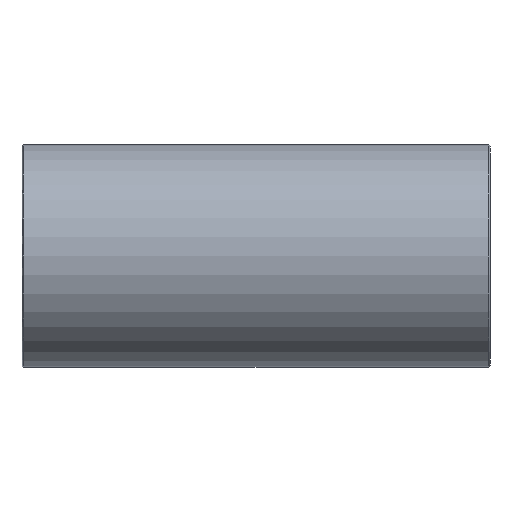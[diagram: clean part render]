
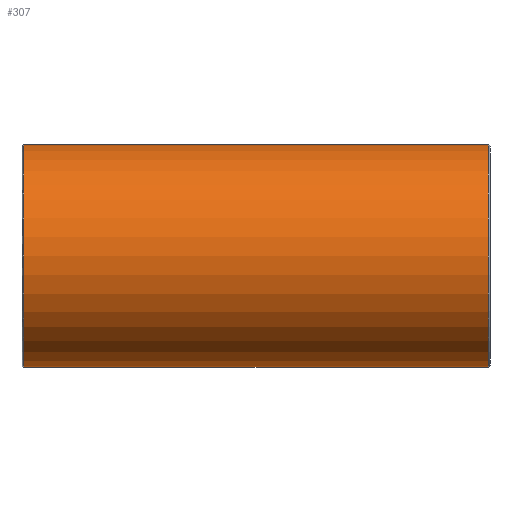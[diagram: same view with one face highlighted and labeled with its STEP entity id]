
A CAD part, front view. The second image highlights one B-rep face of the part: STEP entity #307.
In plain terms, the highlighted cylindrical face has radius 24 mm (diameter 48 mm), a full revolution.
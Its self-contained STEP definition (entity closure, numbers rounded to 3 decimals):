
#21=B_SPLINE_CURVE_WITH_KNOTS('',3,(#503,#504,#505,#506,#507,#508,#509,
#510,#511,#512,#513,#514,#515,#516,#517,#518,#519,#520,#521,#522,#523,#524,
#525,#526,#527,#528,#529,#530,#531,#532,#533,#534,#535,#536,#537,#538,#539,
#540,#541,#542,#543,#544,#545,#546,#547,#548,#549,#550,#551,#552,#553,#554,
#555,#556,#557,#558,#559,#560,#561,#562,#563,#564,#565,#566,#567,#568,#569,
#570,#571,#572,#573,#574,#575,#576),.UNSPECIFIED.,.T.,.F.,(4,2,2,2,2,2,
2,2,2,2,2,2,2,2,2,2,2,2,2,2,2,2,2,2,2,2,2,2,2,2,2,2,2,2,2,2,4),(0.,0.272,
0.544,1.087,1.631,2.175,2.655,
3.136,3.616,4.097,4.577,5.058,
5.538,6.019,6.563,7.106,7.65,
7.922,8.194,8.465,8.737,9.281,
9.824,10.368,10.849,11.329,11.81,
12.29,12.771,13.251,13.732,14.212,
14.756,15.3,15.843,16.115,16.387),
 .UNSPECIFIED.);
#22=FACE_BOUND('',#90,.T.);
#23=FACE_BOUND('',#91,.T.);
#39=CIRCLE('',#333,24.);
#40=CIRCLE('',#334,24.);
#54=CYLINDRICAL_SURFACE('',#332,24.);
#66=FACE_OUTER_BOUND('',#89,.T.);
#89=EDGE_LOOP('',(#250));
#90=EDGE_LOOP('',(#251));
#91=EDGE_LOOP('',(#252));
#170=VERTEX_POINT('',#498);
#171=VERTEX_POINT('',#500);
#172=VERTEX_POINT('',#502);
#204=EDGE_CURVE('',#170,#170,#39,.T.);
#205=EDGE_CURVE('',#171,#171,#40,.T.);
#206=EDGE_CURVE('',#172,#172,#21,.T.);
#250=ORIENTED_EDGE('',*,*,#204,.F.);
#251=ORIENTED_EDGE('',*,*,#205,.F.);
#252=ORIENTED_EDGE('',*,*,#206,.F.);
#307=ADVANCED_FACE('',(#66,#22,#23),#54,.T.);
#332=AXIS2_PLACEMENT_3D('',#497,#397,#398);
#333=AXIS2_PLACEMENT_3D('',#499,#399,#400);
#334=AXIS2_PLACEMENT_3D('',#501,#401,#402);
#397=DIRECTION('center_axis',(1.,0.,0.));
#398=DIRECTION('ref_axis',(0.,1.,0.));
#399=DIRECTION('center_axis',(-1.,0.,0.));
#400=DIRECTION('ref_axis',(0.,-1.,0.));
#401=DIRECTION('center_axis',(1.,0.,0.));
#402=DIRECTION('ref_axis',(0.,-1.,0.));
#497=CARTESIAN_POINT('Origin',(0.,0.,
0.));
#498=CARTESIAN_POINT('',(-50.11,24.,0.));
#499=CARTESIAN_POINT('Origin',(-50.11,0.,0.));
#500=CARTESIAN_POINT('',(50.11,24.,0.));
#501=CARTESIAN_POINT('Origin',(50.11,0.,0.));
#502=CARTESIAN_POINT('',(0.,6.769,23.026));
#503=CARTESIAN_POINT('Ctrl Pts',(0.,6.769,
23.026));
#504=CARTESIAN_POINT('Ctrl Pts',(0.906,6.769,23.026));
#505=CARTESIAN_POINT('Ctrl Pts',(1.738,6.93,22.979));
#506=CARTESIAN_POINT('Ctrl Pts',(3.324,7.435,22.821));
#507=CARTESIAN_POINT('Ctrl Pts',(4.076,7.778,22.708));
#508=CARTESIAN_POINT('Ctrl Pts',(6.284,8.966,22.278));
#509=CARTESIAN_POINT('Ctrl Pts',(7.684,9.959,21.869));
#510=CARTESIAN_POINT('Ctrl Pts',(10.439,12.076,20.774));
#511=CARTESIAN_POINT('Ctrl Pts',(11.777,13.198,20.092));
#512=CARTESIAN_POINT('Ctrl Pts',(14.314,15.395,18.463));
#513=CARTESIAN_POINT('Ctrl Pts',(15.513,16.471,17.516));
#514=CARTESIAN_POINT('Ctrl Pts',(17.568,18.341,15.532));
#515=CARTESIAN_POINT('Ctrl Pts',(18.509,19.21,14.459));
#516=CARTESIAN_POINT('Ctrl Pts',(20.218,20.802,12.056));
#517=CARTESIAN_POINT('Ctrl Pts',(20.987,21.525,10.726));
#518=CARTESIAN_POINT('Ctrl Pts',(22.256,22.723,7.878));
#519=CARTESIAN_POINT('Ctrl Pts',(22.757,23.198,6.357));
#520=CARTESIAN_POINT('Ctrl Pts',(23.429,23.837,3.218));
#521=CARTESIAN_POINT('Ctrl Pts',(23.6,24.,1.602));
#522=CARTESIAN_POINT('Ctrl Pts',(23.6,24.,-1.602));
#523=CARTESIAN_POINT('Ctrl Pts',(23.429,23.837,-3.218));
#524=CARTESIAN_POINT('Ctrl Pts',(22.757,23.198,-6.357));
#525=CARTESIAN_POINT('Ctrl Pts',(22.256,22.723,-7.878));
#526=CARTESIAN_POINT('Ctrl Pts',(20.987,21.525,-10.726));
#527=CARTESIAN_POINT('Ctrl Pts',(20.218,20.802,-12.056));
#528=CARTESIAN_POINT('Ctrl Pts',(18.509,19.21,-14.459));
#529=CARTESIAN_POINT('Ctrl Pts',(17.568,18.341,-15.532));
#530=CARTESIAN_POINT('Ctrl Pts',(15.513,16.471,-17.516));
#531=CARTESIAN_POINT('Ctrl Pts',(14.314,15.395,-18.463));
#532=CARTESIAN_POINT('Ctrl Pts',(11.777,13.198,-20.092));
#533=CARTESIAN_POINT('Ctrl Pts',(10.439,12.076,-20.774));
#534=CARTESIAN_POINT('Ctrl Pts',(7.684,9.959,-21.869));
#535=CARTESIAN_POINT('Ctrl Pts',(6.284,8.966,-22.278));
#536=CARTESIAN_POINT('Ctrl Pts',(4.076,7.778,-22.708));
#537=CARTESIAN_POINT('Ctrl Pts',(3.324,7.435,-22.821));
#538=CARTESIAN_POINT('Ctrl Pts',(1.738,6.93,-22.979));
#539=CARTESIAN_POINT('Ctrl Pts',(0.906,6.769,-23.026));
#540=CARTESIAN_POINT('Ctrl Pts',(-0.906,6.769,-23.026));
#541=CARTESIAN_POINT('Ctrl Pts',(-1.738,6.93,-22.979));
#542=CARTESIAN_POINT('Ctrl Pts',(-3.324,7.435,-22.821));
#543=CARTESIAN_POINT('Ctrl Pts',(-4.076,7.778,-22.708));
#544=CARTESIAN_POINT('Ctrl Pts',(-6.284,8.966,-22.278));
#545=CARTESIAN_POINT('Ctrl Pts',(-7.684,9.959,-21.869));
#546=CARTESIAN_POINT('Ctrl Pts',(-10.439,12.076,-20.774));
#547=CARTESIAN_POINT('Ctrl Pts',(-11.777,13.198,-20.092));
#548=CARTESIAN_POINT('Ctrl Pts',(-14.314,15.395,-18.463));
#549=CARTESIAN_POINT('Ctrl Pts',(-15.513,16.471,-17.516));
#550=CARTESIAN_POINT('Ctrl Pts',(-17.568,18.341,-15.532));
#551=CARTESIAN_POINT('Ctrl Pts',(-18.509,19.21,-14.459));
#552=CARTESIAN_POINT('Ctrl Pts',(-20.218,20.802,-12.056));
#553=CARTESIAN_POINT('Ctrl Pts',(-20.987,21.525,-10.726));
#554=CARTESIAN_POINT('Ctrl Pts',(-22.256,22.723,-7.878));
#555=CARTESIAN_POINT('Ctrl Pts',(-22.757,23.198,-6.357));
#556=CARTESIAN_POINT('Ctrl Pts',(-23.429,23.837,-3.218));
#557=CARTESIAN_POINT('Ctrl Pts',(-23.6,24.,-1.602));
#558=CARTESIAN_POINT('Ctrl Pts',(-23.6,24.,1.602));
#559=CARTESIAN_POINT('Ctrl Pts',(-23.429,23.837,3.218));
#560=CARTESIAN_POINT('Ctrl Pts',(-22.757,23.198,6.357));
#561=CARTESIAN_POINT('Ctrl Pts',(-22.256,22.723,7.878));
#562=CARTESIAN_POINT('Ctrl Pts',(-20.987,21.525,10.726));
#563=CARTESIAN_POINT('Ctrl Pts',(-20.218,20.802,12.056));
#564=CARTESIAN_POINT('Ctrl Pts',(-18.509,19.21,14.459));
#565=CARTESIAN_POINT('Ctrl Pts',(-17.568,18.341,15.532));
#566=CARTESIAN_POINT('Ctrl Pts',(-15.513,16.471,17.516));
#567=CARTESIAN_POINT('Ctrl Pts',(-14.314,15.395,18.463));
#568=CARTESIAN_POINT('Ctrl Pts',(-11.777,13.198,20.092));
#569=CARTESIAN_POINT('Ctrl Pts',(-10.439,12.076,20.774));
#570=CARTESIAN_POINT('Ctrl Pts',(-7.684,9.959,21.869));
#571=CARTESIAN_POINT('Ctrl Pts',(-6.284,8.966,22.278));
#572=CARTESIAN_POINT('Ctrl Pts',(-4.076,7.778,22.708));
#573=CARTESIAN_POINT('Ctrl Pts',(-3.324,7.435,22.821));
#574=CARTESIAN_POINT('Ctrl Pts',(-1.738,6.93,22.979));
#575=CARTESIAN_POINT('Ctrl Pts',(-0.906,6.769,23.026));
#576=CARTESIAN_POINT('Ctrl Pts',(0.,6.769,
23.026));
